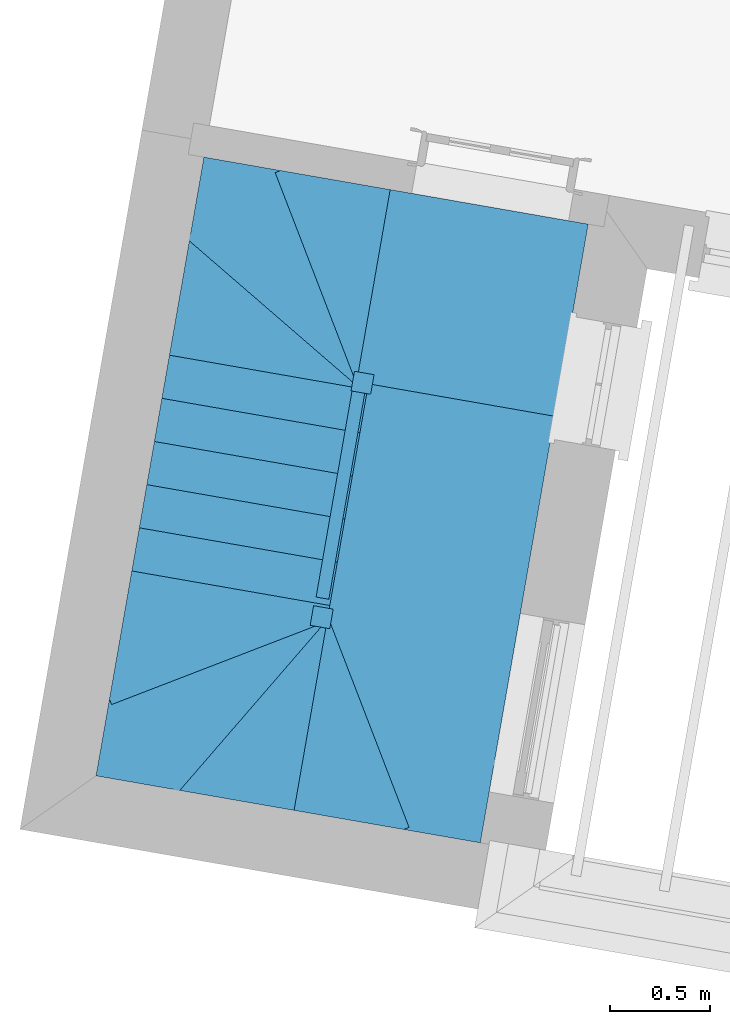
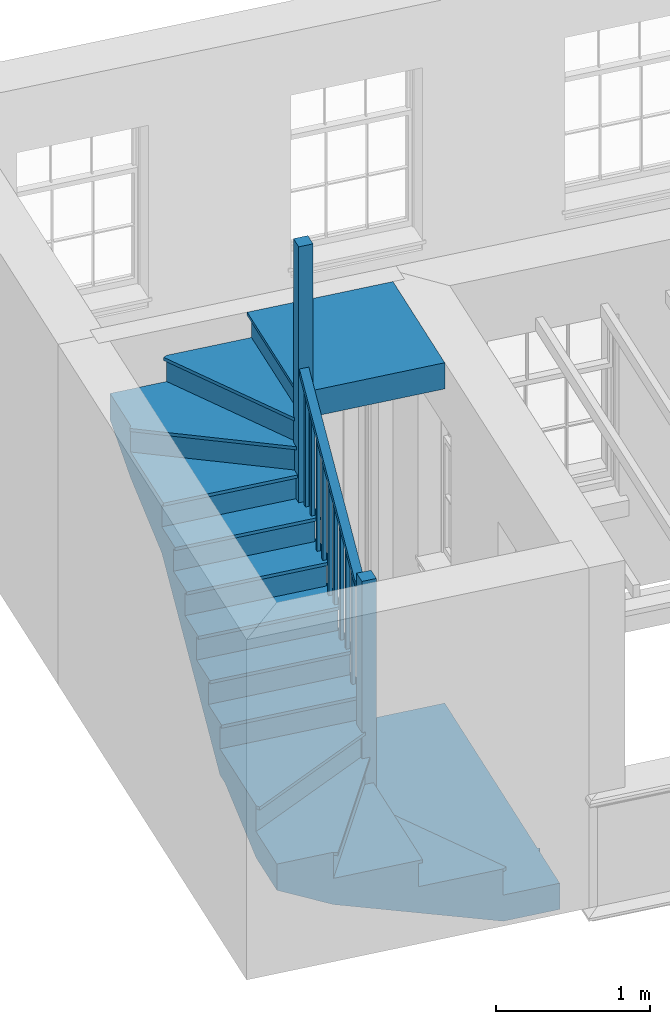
# One storey, part 6 of 6: 1 stair.
"""IFC4 building model written with IfcOpenShell, lengths in metres."""

from ifc_helpers import new_model, si_unit, frame, origin, origin_with_axes, place, context, subcontext, project, spatial, faceted_brep, element, save


model = new_model("IFC4")

# Units and contexts
model_context = context("Model", 3, world=origin_with_axes())
body_context = subcontext(model_context, "Body", "Model", "MODEL_VIEW")
ifc_project = project(units=[si_unit("PLANEANGLEUNIT", "RADIAN"), si_unit("MASSUNIT", "GRAM", prefix="KILO"), si_unit("FORCEUNIT", "NEWTON", prefix="KILO"), si_unit("LENGTHUNIT", "METRE"), si_unit("AREAUNIT", "SQUARE_METRE"), si_unit("VOLUMEUNIT", "CUBIC_METRE")], contexts=[model_context, model_context])

# Sites, building, storey
site_1_placement = place(None, origin_with_axes())
site_1 = spatial("IfcSite", under=ifc_project, at=site_1_placement, Name="Tamar")
site_2_placement = place(site_1_placement, origin_with_axes())
site_2 = spatial("IfcSite", under=site_1, at=site_2_placement, Name="Site plot-27", CompositionType="ELEMENT")
building_placement = place(None, origin_with_axes())
building = spatial("IfcBuilding", under=site_2, at=building_placement, Name="Building plot-27", CompositionType="ELEMENT")
storey_placement = place(None, frame((0.0, 0.0, 29.3), z_axis=(0.0, 0.0, 1.0), x_axis=(1.0, 0.0, 0.0)))
storey = spatial("IfcBuildingStorey", under=building, at=storey_placement, Name="plot-27 1", CompositionType="ELEMENT", Elevation=29.3)

# Stair
stair_placement = place(None, origin())
element("IfcStair", 1, at=stair_placement, inside=storey, Name="Stair", PredefinedType="NOTDEFINED", context=body_context, shape_type="Brep", body=[
    faceted_brep([(292.456542, 271.269902, 31.584615), (292.624795, 272.23476, 31.584615), (292.624795, 272.23476, 31.792308), (292.456542, 271.269902, 31.792308)], [[[0, 1, 2, 3]], [[1, 0, 3, 2]]]),
    faceted_brep([(292.456542, 271.269902, 31.767308), (292.443126, 271.243069, 31.767308), (292.456542, 271.269902, 31.792308), (292.443126, 271.243069, 31.792308)], [[[0, 1, 2]], [[1, 0, 2]], [[1, 3, 2]], [[3, 1, 2]]]),
    faceted_brep([(292.398696, 271.229235, 32.992308), (292.497209, 271.212056, 32.992308), (292.514388, 271.310569, 32.992308), (292.415875, 271.327748, 32.992308), (292.415875, 271.327748, 31.792308), (292.514388, 271.310569, 31.792308), (292.497209, 271.212056, 31.792308), (292.398696, 271.229235, 31.792308)], [[[0, 1, 2, 3]], [[4, 5, 6, 7]], [[7, 6, 1, 0]], [[6, 5, 2, 1]], [[5, 4, 3, 2]], [[4, 7, 0, 3]]]),
    faceted_brep([(292.624795, 272.23476, 31.792308), (292.04588, 272.335711, 31.792308), (292.456542, 271.269902, 31.792308), (292.456542, 271.269902, 31.376923), (292.04588, 272.335711, 31.376923), (292.624795, 272.23476, 31.584615)], [[[0, 1, 2]], [[3, 4, 5]], [[0, 5, 4, 1]], [[4, 3, 2, 1]], [[2, 3, 5, 0]]]),
    faceted_brep([(292.017887, 272.324925, 31.767308), (292.017887, 272.324925, 31.792308), (292.04588, 272.335711, 31.767308), (292.428548, 271.259116, 31.792308), (292.428548, 271.259116, 31.767308), (292.456542, 271.269902, 31.767308), (292.04588, 272.335711, 31.792308), (292.456542, 271.269902, 31.792308)], [[[0, 1, 2]], [[3, 4, 5]], [[2, 1, 6]], [[3, 5, 7]], [[6, 1, 3, 7]], [[2, 6, 7, 5]], [[0, 2, 5, 4]], [[1, 0, 4, 3]]]),
    faceted_brep([(292.04588, 272.335711, 31.584615), (291.659938, 272.403012, 31.584615), (291.592636, 272.017069, 31.584615), (292.456542, 271.269902, 31.584615), (292.456542, 271.269902, 31.169231), (291.592636, 272.017069, 31.169231), (291.659938, 272.403012, 31.376923), (292.04588, 272.335711, 31.376923)], [[[0, 1, 2, 3]], [[4, 5, 6, 7]], [[7, 6, 1, 0]], [[1, 6, 5, 2]], [[5, 4, 3, 2]], [[3, 4, 7, 0]]]),
    faceted_brep([(291.592636, 272.017069, 31.559615), (291.573012, 271.994379, 31.559615), (291.592636, 272.017069, 31.584615), (292.436917, 271.247211, 31.559615), (292.456542, 271.269902, 31.559615), (292.456542, 271.269902, 31.584615), (291.573012, 271.994379, 31.584615), (292.436917, 271.247211, 31.584615)], [[[0, 1, 2]], [[3, 4, 5]], [[1, 6, 2]], [[7, 3, 5]], [[2, 6, 7, 5]], [[0, 2, 5, 4]], [[1, 0, 4, 3]], [[6, 1, 3, 7]]]),
    faceted_brep([(291.592636, 272.017069, 31.376923), (291.491685, 271.438155, 31.376923), (292.456542, 271.269902, 31.376923), (292.456542, 271.269902, 30.961538), (291.491685, 271.438155, 30.961538), (291.592636, 272.017069, 31.169231)], [[[0, 1, 2]], [[3, 4, 5]], [[0, 5, 4, 1]], [[4, 3, 2, 1]], [[2, 3, 5, 0]]]),
    faceted_brep([(291.491685, 271.438155, 31.351923), (291.486531, 271.408601, 31.351923), (291.491685, 271.438155, 31.376923), (292.451388, 271.240348, 31.351923), (292.456542, 271.269902, 31.351923), (292.456542, 271.269902, 31.376923), (291.486531, 271.408601, 31.376923), (292.451388, 271.240348, 31.376923)], [[[0, 1, 2]], [[3, 4, 5]], [[1, 6, 2]], [[7, 3, 5]], [[2, 6, 7, 5]], [[0, 2, 5, 4]], [[1, 0, 4, 3]], [[6, 1, 3, 7]]]),
    faceted_brep([(292.398696, 271.229235, 31.792308), (292.497209, 271.212056, 31.792308), (292.514388, 271.310569, 31.792308), (292.415875, 271.327748, 31.792308), (292.415875, 271.327748, 30.876923), (292.514388, 271.310569, 30.876923), (292.497209, 271.212056, 30.876923), (292.398696, 271.229235, 30.876923)], [[[0, 1, 2, 3]], [[4, 5, 6, 7]], [[7, 6, 1, 0]], [[6, 5, 2, 1]], [[5, 4, 3, 2]], [[4, 7, 0, 3]]]),
    faceted_brep([(292.456542, 271.269902, 31.169231), (291.491685, 271.438155, 31.169231), (291.453891, 271.221426, 31.169231), (292.418749, 271.053173, 31.169231), (292.418749, 271.053173, 30.753846), (291.453891, 271.221426, 30.753846), (291.491685, 271.438155, 30.961538), (292.456542, 271.269902, 30.961538)], [[[0, 1, 2, 3]], [[4, 5, 6, 7]], [[7, 6, 1, 0]], [[1, 6, 5, 2]], [[5, 4, 3, 2]], [[3, 4, 7, 0]]]),
    faceted_brep([(291.453891, 271.221426, 31.144231), (291.448737, 271.191872, 31.144231), (291.453891, 271.221426, 31.169231), (291.496838, 271.467709, 31.144231), (291.491685, 271.438155, 31.144231), (291.491685, 271.438155, 31.169231), (291.448737, 271.191872, 31.169231), (291.496838, 271.467709, 31.169231), (292.443149, 271.018465, 31.169231), (292.418749, 271.053173, 31.169231), (292.418749, 271.053173, 31.144231), (292.443149, 271.018465, 31.144231), (292.49125, 271.294302, 31.169231), (292.456542, 271.269902, 31.169231), (292.456542, 271.269902, 31.144231), (292.49125, 271.294302, 31.144231)], [[[0, 1, 2]], [[3, 4, 5]], [[1, 6, 2]], [[7, 3, 5]], [[2, 6, 8, 9]], [[0, 2, 9, 10]], [[1, 0, 10, 11]], [[6, 1, 11, 8]], [[9, 8, 12, 13]], [[10, 9, 13, 14]], [[11, 10, 14, 15]], [[8, 11, 15, 12]], [[13, 12, 7, 5]], [[14, 13, 5, 4]], [[15, 14, 4, 3]], [[12, 15, 3, 7]]]),
    faceted_brep([(292.418749, 271.053173, 32.069231), (292.423043, 271.077801, 32.069231), (292.398415, 271.082096, 32.069231), (292.39412, 271.057467, 32.069231), (292.39412, 271.057467, 31.169231), (292.398415, 271.082096, 31.169231), (292.423043, 271.077801, 31.169231), (292.418749, 271.053173, 31.169231)], [[[0, 1, 2, 3]], [[4, 5, 6, 7]], [[7, 6, 1, 0]], [[6, 5, 2, 1]], [[5, 4, 3, 2]], [[4, 7, 0, 3]]]),
    faceted_brep([(292.437645, 271.161537, 32.173077), (292.44194, 271.186166, 32.173077), (292.417312, 271.19046, 32.173077), (292.413017, 271.165832, 32.173077), (292.413017, 271.165832, 31.169231), (292.417312, 271.19046, 31.169231), (292.44194, 271.186166, 31.169231), (292.437645, 271.161537, 31.169231)], [[[0, 1, 2, 3]], [[4, 5, 6, 7]], [[7, 6, 1, 0]], [[6, 5, 2, 1]], [[5, 4, 3, 2]], [[4, 7, 0, 3]]]),
    faceted_brep([(292.374418, 271.060903, 32.019231), (292.438451, 271.049737, 32.019231), (292.438451, 271.049737, 32.069231), (292.374418, 271.060903, 32.069231), (292.476245, 271.266466, 32.226923), (292.412211, 271.277633, 32.226923), (292.412211, 271.277633, 32.276923), (292.476245, 271.266466, 32.276923)], [[[0, 1, 2, 3]], [[4, 5, 6, 7]], [[0, 5, 4, 1]], [[3, 2, 7, 6]], [[0, 3, 6, 5]], [[2, 1, 4, 7]]]),
    faceted_brep([(292.418749, 271.053173, 30.961538), (291.453891, 271.221426, 30.961538), (291.416098, 271.004696, 30.961538), (292.380955, 270.836443, 30.961538), (292.380955, 270.836443, 30.546154), (291.416098, 271.004696, 30.546154), (291.453891, 271.221426, 30.753846), (292.418749, 271.053173, 30.753846)], [[[0, 1, 2, 3]], [[4, 5, 6, 7]], [[7, 6, 1, 0]], [[1, 6, 5, 2]], [[5, 4, 3, 2]], [[3, 4, 7, 0]]]),
    faceted_brep([(291.410944, 270.975142, 30.936538), (291.410944, 270.975142, 30.961538), (291.416098, 271.004696, 30.936538), (291.459045, 271.25098, 30.961538), (291.459045, 271.25098, 30.936538), (291.453891, 271.221426, 30.936538), (291.416098, 271.004696, 30.961538), (291.453891, 271.221426, 30.961538), (292.405355, 270.801736, 30.961538), (292.380955, 270.836443, 30.961538), (292.380955, 270.836443, 30.936538), (292.405355, 270.801736, 30.936538), (292.453456, 271.077573, 30.961538), (292.418749, 271.053173, 30.961538), (292.418749, 271.053173, 30.936538), (292.453456, 271.077573, 30.936538)], [[[0, 1, 2]], [[3, 4, 5]], [[2, 1, 6]], [[3, 5, 7]], [[6, 1, 8, 9]], [[2, 6, 9, 10]], [[0, 2, 10, 11]], [[1, 0, 11, 8]], [[9, 8, 12, 13]], [[10, 9, 13, 14]], [[11, 10, 14, 15]], [[8, 11, 15, 12]], [[13, 12, 3, 7]], [[14, 13, 7, 5]], [[15, 14, 5, 4]], [[12, 15, 4, 3]]]),
    faceted_brep([(292.380955, 270.836443, 31.861538), (292.38525, 270.861072, 31.861538), (292.360621, 270.865366, 31.861538), (292.356327, 270.840738, 31.861538), (292.356327, 270.840738, 30.961538), (292.360621, 270.865366, 30.961538), (292.38525, 270.861072, 30.961538), (292.380955, 270.836443, 30.961538)], [[[0, 1, 2, 3]], [[4, 5, 6, 7]], [[7, 6, 1, 0]], [[6, 5, 2, 1]], [[5, 4, 3, 2]], [[4, 7, 0, 3]]]),
    faceted_brep([(292.399852, 270.944808, 31.965385), (292.404147, 270.969436, 31.965385), (292.379518, 270.973731, 31.965385), (292.375223, 270.949103, 31.965385), (292.375223, 270.949103, 30.961538), (292.379518, 270.973731, 30.961538), (292.404147, 270.969436, 30.961538), (292.399852, 270.944808, 30.961538)], [[[0, 1, 2, 3]], [[4, 5, 6, 7]], [[7, 6, 1, 0]], [[6, 5, 2, 1]], [[5, 4, 3, 2]], [[4, 7, 0, 3]]]),
    faceted_brep([(292.336624, 270.844174, 31.811538), (292.400658, 270.833007, 31.811538), (292.400658, 270.833007, 31.861538), (292.336624, 270.844174, 31.861538), (292.438451, 271.049737, 32.019231), (292.374418, 271.060903, 32.019231), (292.374418, 271.060903, 32.069231), (292.438451, 271.049737, 32.069231)], [[[0, 1, 2, 3]], [[4, 5, 6, 7]], [[0, 5, 4, 1]], [[3, 2, 7, 6]], [[0, 3, 6, 5]], [[2, 1, 4, 7]]]),
    faceted_brep([(292.380955, 270.836443, 30.753846), (291.416098, 271.004696, 30.753846), (291.378304, 270.787967, 30.753846), (292.343162, 270.619714, 30.753846), (292.343162, 270.619714, 30.338462), (291.378304, 270.787967, 30.338462), (291.416098, 271.004696, 30.546154), (292.380955, 270.836443, 30.546154)], [[[0, 1, 2, 3]], [[4, 5, 6, 7]], [[7, 6, 1, 0]], [[1, 6, 5, 2]], [[5, 4, 3, 2]], [[3, 4, 7, 0]]]),
    faceted_brep([(291.37315, 270.758413, 30.728846), (291.37315, 270.758413, 30.753846), (291.378304, 270.787967, 30.728846), (291.421251, 271.03425, 30.753846), (291.421251, 271.03425, 30.728846), (291.416098, 271.004696, 30.728846), (291.378304, 270.787967, 30.753846), (291.416098, 271.004696, 30.753846), (292.367562, 270.585006, 30.753846), (292.343162, 270.619714, 30.753846), (292.343162, 270.619714, 30.728846), (292.367562, 270.585006, 30.728846), (292.415663, 270.860844, 30.753846), (292.380955, 270.836443, 30.753846), (292.380955, 270.836443, 30.728846), (292.415663, 270.860844, 30.728846)], [[[0, 1, 2]], [[3, 4, 5]], [[2, 1, 6]], [[3, 5, 7]], [[6, 1, 8, 9]], [[2, 6, 9, 10]], [[0, 2, 10, 11]], [[1, 0, 11, 8]], [[9, 8, 12, 13]], [[10, 9, 13, 14]], [[11, 10, 14, 15]], [[8, 11, 15, 12]], [[13, 12, 3, 7]], [[14, 13, 7, 5]], [[15, 14, 5, 4]], [[12, 15, 4, 3]]]),
    faceted_brep([(292.343162, 270.619714, 31.653846), (292.347456, 270.644342, 31.653846), (292.322828, 270.648637, 31.653846), (292.318533, 270.624009, 31.653846), (292.318533, 270.624009, 30.753846), (292.322828, 270.648637, 30.753846), (292.347456, 270.644342, 30.753846), (292.343162, 270.619714, 30.753846)], [[[0, 1, 2, 3]], [[4, 5, 6, 7]], [[7, 6, 1, 0]], [[6, 5, 2, 1]], [[5, 4, 3, 2]], [[4, 7, 0, 3]]]),
    faceted_brep([(292.362058, 270.728079, 31.757692), (292.366353, 270.752707, 31.757692), (292.341725, 270.757002, 31.757692), (292.33743, 270.732373, 31.757692), (292.33743, 270.732373, 30.753846), (292.341725, 270.757002, 30.753846), (292.366353, 270.752707, 30.753846), (292.362058, 270.728079, 30.753846)], [[[0, 1, 2, 3]], [[4, 5, 6, 7]], [[7, 6, 1, 0]], [[6, 5, 2, 1]], [[5, 4, 3, 2]], [[4, 7, 0, 3]]]),
    faceted_brep([(292.298831, 270.627444, 31.603846), (292.362864, 270.616278, 31.603846), (292.362864, 270.616278, 31.653846), (292.298831, 270.627444, 31.653846), (292.400658, 270.833007, 31.811538), (292.336624, 270.844174, 31.811538), (292.336624, 270.844174, 31.861538), (292.400658, 270.833007, 31.861538)], [[[0, 1, 2, 3]], [[4, 5, 6, 7]], [[0, 5, 4, 1]], [[3, 2, 7, 6]], [[0, 3, 6, 5]], [[2, 1, 4, 7]]]),
    faceted_brep([(292.343162, 270.619714, 30.546154), (291.378304, 270.787967, 30.546154), (291.340511, 270.571237, 30.546154), (292.305368, 270.402984, 30.546154), (292.305368, 270.402984, 30.130769), (291.340511, 270.571237, 30.130769), (291.378304, 270.787967, 30.338462), (292.343162, 270.619714, 30.338462)], [[[0, 1, 2, 3]], [[4, 5, 6, 7]], [[7, 6, 1, 0]], [[1, 6, 5, 2]], [[5, 4, 3, 2]], [[3, 4, 7, 0]]]),
    faceted_brep([(291.335357, 270.541683, 30.521154), (291.335357, 270.541683, 30.546154), (291.340511, 270.571237, 30.521154), (291.383458, 270.817521, 30.546154), (291.383458, 270.817521, 30.521154), (291.378304, 270.787967, 30.521154), (291.340511, 270.571237, 30.546154), (291.378304, 270.787967, 30.546154), (292.329768, 270.368277, 30.546154), (292.305368, 270.402984, 30.546154), (292.305368, 270.402984, 30.521154), (292.329768, 270.368277, 30.521154), (292.377869, 270.644114, 30.546154), (292.343162, 270.619714, 30.546154), (292.343162, 270.619714, 30.521154), (292.377869, 270.644114, 30.521154)], [[[0, 1, 2]], [[3, 4, 5]], [[2, 1, 6]], [[3, 5, 7]], [[6, 1, 8, 9]], [[2, 6, 9, 10]], [[0, 2, 10, 11]], [[1, 0, 11, 8]], [[9, 8, 12, 13]], [[10, 9, 13, 14]], [[11, 10, 14, 15]], [[8, 11, 15, 12]], [[13, 12, 3, 7]], [[14, 13, 7, 5]], [[15, 14, 5, 4]], [[12, 15, 4, 3]]]),
    faceted_brep([(292.305368, 270.402984, 31.446154), (292.309663, 270.427613, 31.446154), (292.285034, 270.431907, 31.446154), (292.28074, 270.407279, 31.446154), (292.28074, 270.407279, 30.546154), (292.285034, 270.431907, 30.546154), (292.309663, 270.427613, 30.546154), (292.305368, 270.402984, 30.546154)], [[[0, 1, 2, 3]], [[4, 5, 6, 7]], [[7, 6, 1, 0]], [[6, 5, 2, 1]], [[5, 4, 3, 2]], [[4, 7, 0, 3]]]),
    faceted_brep([(292.324265, 270.511349, 31.55), (292.328559, 270.535977, 31.55), (292.303931, 270.540272, 31.55), (292.299636, 270.515644, 31.55), (292.299636, 270.515644, 30.546154), (292.303931, 270.540272, 30.546154), (292.328559, 270.535977, 30.546154), (292.324265, 270.511349, 30.546154)], [[[0, 1, 2, 3]], [[4, 5, 6, 7]], [[7, 6, 1, 0]], [[6, 5, 2, 1]], [[5, 4, 3, 2]], [[4, 7, 0, 3]]]),
    faceted_brep([(292.261037, 270.410715, 31.396154), (292.325071, 270.399549, 31.396154), (292.325071, 270.399549, 31.446154), (292.261037, 270.410715, 31.446154), (292.362864, 270.616278, 31.603846), (292.298831, 270.627444, 31.603846), (292.298831, 270.627444, 31.653846), (292.362864, 270.616278, 31.653846)], [[[0, 1, 2, 3]], [[4, 5, 6, 7]], [[0, 5, 4, 1]], [[3, 2, 7, 6]], [[0, 3, 6, 5]], [[2, 1, 4, 7]]]),
    faceted_brep([(292.305368, 270.402984, 30.338462), (291.340511, 270.571237, 30.338462), (291.302717, 270.354508, 30.338462), (292.267575, 270.186255, 30.338462), (292.267575, 270.186255, 29.923077), (291.302717, 270.354508, 29.923077), (291.340511, 270.571237, 30.130769), (292.305368, 270.402984, 30.130769)], [[[0, 1, 2, 3]], [[4, 5, 6, 7]], [[7, 6, 1, 0]], [[1, 6, 5, 2]], [[5, 4, 3, 2]], [[3, 4, 7, 0]]]),
    faceted_brep([(291.297563, 270.324954, 30.313462), (291.297563, 270.324954, 30.338462), (291.302717, 270.354508, 30.313462), (291.345664, 270.600791, 30.338462), (291.345664, 270.600791, 30.313462), (291.340511, 270.571237, 30.313462), (291.302717, 270.354508, 30.338462), (291.340511, 270.571237, 30.338462), (292.291975, 270.151547, 30.338462), (292.267575, 270.186255, 30.338462), (292.267575, 270.186255, 30.313462), (292.291975, 270.151547, 30.313462), (292.340076, 270.427385, 30.338462), (292.305368, 270.402984, 30.338462), (292.305368, 270.402984, 30.313462), (292.340076, 270.427385, 30.313462)], [[[0, 1, 2]], [[3, 4, 5]], [[2, 1, 6]], [[3, 5, 7]], [[6, 1, 8, 9]], [[2, 6, 9, 10]], [[0, 2, 10, 11]], [[1, 0, 11, 8]], [[9, 8, 12, 13]], [[10, 9, 13, 14]], [[11, 10, 14, 15]], [[8, 11, 15, 12]], [[13, 12, 3, 7]], [[14, 13, 7, 5]], [[15, 14, 5, 4]], [[12, 15, 4, 3]]]),
    faceted_brep([(292.267575, 270.186255, 31.238462), (292.271869, 270.210883, 31.238462), (292.247241, 270.215178, 31.238462), (292.242946, 270.19055, 31.238462), (292.242946, 270.19055, 30.338462), (292.247241, 270.215178, 30.338462), (292.271869, 270.210883, 30.338462), (292.267575, 270.186255, 30.338462)], [[[0, 1, 2, 3]], [[4, 5, 6, 7]], [[7, 6, 1, 0]], [[6, 5, 2, 1]], [[5, 4, 3, 2]], [[4, 7, 0, 3]]]),
    faceted_brep([(292.286471, 270.29462, 31.342308), (292.290766, 270.319248, 31.342308), (292.266138, 270.323543, 31.342308), (292.261843, 270.298914, 31.342308), (292.261843, 270.298914, 30.338462), (292.266138, 270.323543, 30.338462), (292.290766, 270.319248, 30.338462), (292.286471, 270.29462, 30.338462)], [[[0, 1, 2, 3]], [[4, 5, 6, 7]], [[7, 6, 1, 0]], [[6, 5, 2, 1]], [[5, 4, 3, 2]], [[4, 7, 0, 3]]]),
    faceted_brep([(292.223243, 270.193985, 31.188462), (292.287277, 270.182819, 31.188462), (292.287277, 270.182819, 31.238462), (292.223243, 270.193985, 31.238462), (292.325071, 270.399549, 31.396154), (292.261037, 270.410715, 31.396154), (292.261037, 270.410715, 31.446154), (292.325071, 270.399549, 31.446154)], [[[0, 1, 2, 3]], [[4, 5, 6, 7]], [[0, 5, 4, 1]], [[3, 2, 7, 6]], [[0, 3, 6, 5]], [[2, 1, 4, 7]]]),
    faceted_brep([(292.267575, 270.186255, 30.130769), (291.302717, 270.354508, 30.130769), (291.286406, 270.26097, 30.130769), (292.251263, 270.092717, 30.130769), (292.251263, 270.092717, 29.923077), (291.286406, 270.26097, 29.923077), (291.302717, 270.354508, 29.923077), (292.267575, 270.186255, 29.923077)], [[[0, 1, 2, 3]], [[4, 5, 6, 7]], [[7, 6, 1, 0]], [[6, 5, 2, 1]], [[5, 4, 3, 2]], [[4, 7, 0, 3]]]),
    faceted_brep([(292.280817, 270.087564, 30.105769), (292.280817, 270.087564, 30.130769), (292.251263, 270.092717, 30.105769), (292.297129, 270.181101, 30.130769), (292.297129, 270.181101, 30.105769), (292.267575, 270.186255, 30.105769), (292.251263, 270.092717, 30.130769), (292.267575, 270.186255, 30.130769)], [[[0, 1, 2]], [[3, 4, 5]], [[2, 1, 6]], [[3, 5, 7]], [[6, 1, 3, 7]], [[2, 6, 7, 5]], [[0, 2, 5, 4]], [[1, 0, 4, 3]]]),
    faceted_brep([(292.291931, 270.034871, 31.330769), (292.309109, 270.133385, 31.330769), (292.210596, 270.150563, 31.330769), (292.193417, 270.05205, 31.330769), (292.193417, 270.05205, 30.130769), (292.210596, 270.150563, 30.130769), (292.309109, 270.133385, 30.130769), (292.291931, 270.034871, 30.130769)], [[[0, 1, 2, 3]], [[4, 5, 6, 7]], [[7, 6, 1, 0]], [[6, 5, 2, 1]], [[5, 4, 3, 2]], [[4, 7, 0, 3]]]),
    faceted_brep([(291.286406, 270.26097, 30.130769), (291.185454, 269.682056, 30.130769), (292.251263, 270.092717, 30.130769), (292.251263, 270.092717, 29.715385), (291.185454, 269.682056, 29.715385), (291.286406, 270.26097, 29.923077)], [[[0, 1, 2]], [[3, 4, 5]], [[0, 5, 4, 1]], [[4, 3, 2, 1]], [[2, 3, 5, 0]]]),
    faceted_brep([(291.19624, 269.654062, 30.105769), (291.19624, 269.654062, 30.130769), (291.185454, 269.682056, 30.105769), (292.26205, 270.064723, 30.130769), (292.26205, 270.064723, 30.105769), (292.251263, 270.092717, 30.105769), (291.185454, 269.682056, 30.130769), (292.251263, 270.092717, 30.130769)], [[[0, 1, 2]], [[3, 4, 5]], [[2, 1, 6]], [[3, 5, 7]], [[6, 1, 3, 7]], [[2, 6, 7, 5]], [[0, 2, 5, 4]], [[1, 0, 4, 3]]]),
    faceted_brep([(291.185454, 269.682056, 29.923077), (291.118153, 269.296113, 29.923077), (291.504096, 269.228812, 29.923077), (292.251263, 270.092717, 29.923077), (292.251263, 270.092717, 29.507692), (291.504096, 269.228812, 29.507692), (291.118153, 269.296113, 29.715385), (291.185454, 269.682056, 29.715385)], [[[0, 1, 2, 3]], [[4, 5, 6, 7]], [[7, 6, 1, 0]], [[1, 6, 5, 2]], [[5, 4, 3, 2]], [[3, 4, 7, 0]]]),
    faceted_brep([(291.504096, 269.228812, 29.898077), (291.526787, 269.209187, 29.898077), (291.504096, 269.228812, 29.923077), (292.273954, 270.073093, 29.898077), (292.251263, 270.092717, 29.898077), (292.251263, 270.092717, 29.923077), (291.526787, 269.209187, 29.923077), (292.273954, 270.073093, 29.923077)], [[[0, 1, 2]], [[3, 4, 5]], [[1, 6, 2]], [[7, 3, 5]], [[2, 6, 7, 5]], [[0, 2, 5, 4]], [[1, 0, 4, 3]], [[6, 1, 3, 7]]]),
    faceted_brep([(291.504096, 269.228812, 29.715385), (292.08301, 269.12786, 29.715385), (292.251263, 270.092717, 29.715385), (292.251263, 270.092717, 29.3), (292.08301, 269.12786, 29.3), (291.504096, 269.228812, 29.507692)], [[[0, 1, 2]], [[3, 4, 5]], [[0, 5, 4, 1]], [[4, 3, 2, 1]], [[2, 3, 5, 0]]]),
    faceted_brep([(292.08301, 269.12786, 29.690385), (292.112564, 269.122706, 29.690385), (292.08301, 269.12786, 29.715385), (292.280817, 270.087564, 29.690385), (292.251263, 270.092717, 29.690385), (292.251263, 270.092717, 29.715385), (292.112564, 269.122706, 29.715385), (292.280817, 270.087564, 29.715385)], [[[0, 1, 2]], [[3, 4, 5]], [[1, 6, 2]], [[7, 3, 5]], [[2, 6, 7, 5]], [[0, 2, 5, 4]], [[1, 0, 4, 3]], [[6, 1, 3, 7]]]),
    faceted_brep([(292.291931, 270.034871, 30.130769), (292.309109, 270.133385, 30.130769), (292.210596, 270.150563, 30.130769), (292.193417, 270.05205, 30.130769), (292.193417, 270.05205, 29.215385), (292.210596, 270.150563, 29.215385), (292.309109, 270.133385, 29.215385), (292.291931, 270.034871, 29.215385)], [[[0, 1, 2, 3]], [[4, 5, 6, 7]], [[7, 6, 1, 0]], [[6, 5, 2, 1]], [[5, 4, 3, 2]], [[4, 7, 0, 3]]]),
    faceted_brep([(292.251263, 270.092717, 29.3), (292.08301, 269.12786, 29.3), (292.08301, 269.12786, 29.507692), (292.251263, 270.092717, 29.507692)], [[[0, 1, 2, 3]], [[1, 0, 3, 2]]]),
    faceted_brep([(292.256195, 270.122309, 29.482692), (292.256195, 270.122309, 29.507692), (292.251263, 270.092717, 29.482692), (292.251263, 270.092717, 29.507692)], [[[0, 1, 2]], [[1, 0, 2]], [[2, 1, 3]], [[1, 2, 3]]]),
    faceted_brep([(292.309109, 270.133385, 30.707692), (292.210596, 270.150563, 30.707692), (292.193417, 270.05205, 30.707692), (292.291931, 270.034871, 30.707692), (292.291931, 270.034871, 29.507692), (292.193417, 270.05205, 29.507692), (292.210596, 270.150563, 29.507692), (292.309109, 270.133385, 29.507692)], [[[0, 1, 2, 3]], [[4, 5, 6, 7]], [[7, 6, 1, 0]], [[6, 5, 2, 1]], [[5, 4, 3, 2]], [[4, 7, 0, 3]]]),
    faceted_brep([(292.08301, 269.12786, 29.507692), (292.661925, 269.026908, 29.507692), (292.251263, 270.092717, 29.507692), (292.251263, 270.092717, 29.092308), (292.661925, 269.026908, 29.092308), (292.08301, 269.12786, 29.3)], [[[0, 1, 2]], [[3, 4, 5]], [[0, 5, 4, 1]], [[4, 3, 2, 1]], [[2, 3, 5, 0]]]),
    faceted_brep([(292.661925, 269.026908, 29.482692), (292.689919, 269.037694, 29.482692), (292.661925, 269.026908, 29.507692), (292.279257, 270.103504, 29.482692), (292.251263, 270.092717, 29.482692), (292.251263, 270.092717, 29.507692), (292.689919, 269.037694, 29.507692), (292.279257, 270.103504, 29.507692)], [[[0, 1, 2]], [[3, 4, 5]], [[1, 6, 2]], [[7, 3, 5]], [[2, 6, 7, 5]], [[0, 2, 5, 4]], [[1, 0, 4, 3]], [[6, 1, 3, 7]]]),
    faceted_brep([(292.661925, 269.026908, 29.3), (293.047868, 268.959607, 29.3), (293.115169, 269.34555, 29.3), (292.251263, 270.092717, 29.3), (292.251263, 270.092717, 28.884615), (293.115169, 269.34555, 28.884615), (293.047868, 268.959607, 29.092308), (292.661925, 269.026908, 29.092308)], [[[0, 1, 2, 3]], [[4, 5, 6, 7]], [[7, 6, 1, 0]], [[1, 6, 5, 2]], [[5, 4, 3, 2]], [[3, 4, 7, 0]]]),
    faceted_brep([(293.134794, 269.368241, 29.275), (293.134794, 269.368241, 29.3), (293.115169, 269.34555, 29.275), (292.270888, 270.115408, 29.3), (292.270888, 270.115408, 29.275), (292.251263, 270.092717, 29.275), (293.115169, 269.34555, 29.3), (292.251263, 270.092717, 29.3)], [[[0, 1, 2]], [[3, 4, 5]], [[2, 1, 6]], [[3, 5, 7]], [[6, 1, 3, 7]], [[2, 6, 7, 5]], [[0, 2, 5, 4]], [[1, 0, 4, 3]]]),
    faceted_brep([(293.115169, 269.34555, 29.3), (293.216121, 269.924464, 29.3), (292.251263, 270.092717, 29.3), (292.251263, 270.092717, 28.884615), (293.216121, 269.924464, 28.884615), (293.115169, 269.34555, 29.092308)], [[[0, 1, 2]], [[3, 4, 5]], [[0, 5, 4, 1]], [[4, 3, 2, 1]], [[2, 3, 5, 0]]]),
    faceted_brep([(293.216121, 269.924464, 29.275), (293.221274, 269.954018, 29.275), (293.216121, 269.924464, 29.3), (292.256417, 270.122271, 29.275), (292.251263, 270.092717, 29.275), (292.251263, 270.092717, 29.3), (293.221274, 269.954018, 29.3), (292.256417, 270.122271, 29.3)], [[[0, 1, 2]], [[3, 4, 5]], [[1, 6, 2]], [[7, 3, 5]], [[2, 6, 7, 5]], [[0, 2, 5, 4]], [[1, 0, 4, 3]], [[6, 1, 3, 7]]]),
    faceted_brep([(292.309109, 270.133385, 29.507692), (292.210596, 270.150563, 29.507692), (292.193417, 270.05205, 29.507692), (292.291931, 270.034871, 29.507692), (292.291931, 270.034871, 28.8), (292.193417, 270.05205, 28.8), (292.210596, 270.150563, 28.8), (292.309109, 270.133385, 28.8)], [[[0, 1, 2, 3]], [[4, 5, 6, 7]], [[7, 6, 1, 0]], [[6, 5, 2, 1]], [[5, 4, 3, 2]], [[4, 7, 0, 3]]]),
    faceted_brep([(292.251263, 270.092717, 29.3), (293.216121, 269.924464, 29.3), (293.421399, 271.101649, 29.3), (292.456542, 271.269902, 29.3), (292.456542, 271.269902, 29.092308), (293.421399, 271.101649, 29.092308), (293.216121, 269.924464, 29.092308), (292.251263, 270.092717, 29.092308)], [[[0, 1, 2, 3]], [[4, 5, 6, 7]], [[7, 6, 1, 0]], [[6, 5, 2, 1]], [[5, 4, 3, 2]], [[4, 7, 0, 3]]]),
    faceted_brep([(292.456542, 271.269902, 29.275), (292.426988, 271.275056, 29.275), (292.456542, 271.269902, 29.3), (292.221709, 270.097871, 29.275), (292.251263, 270.092717, 29.275), (292.251263, 270.092717, 29.3), (292.426988, 271.275056, 29.3), (292.221709, 270.097871, 29.3)], [[[0, 1, 2]], [[3, 4, 5]], [[1, 6, 2]], [[7, 3, 5]], [[2, 6, 7, 5]], [[0, 2, 5, 4]], [[1, 0, 4, 3]], [[6, 1, 3, 7]]]),
    faceted_brep([(292.415875, 271.327748, 33.2), (292.398696, 271.229235, 33.2), (292.497209, 271.212056, 33.2), (292.514388, 271.310569, 33.2), (292.514388, 271.310569, 32.0), (292.497209, 271.212056, 32.0), (292.398696, 271.229235, 32.0), (292.415875, 271.327748, 32.0)], [[[0, 1, 2, 3]], [[4, 5, 6, 7]], [[7, 6, 1, 0]], [[6, 5, 2, 1]], [[5, 4, 3, 2]], [[4, 7, 0, 3]]]),
    faceted_brep([(292.456542, 271.269902, 32.0), (293.421399, 271.101649, 32.0), (293.589652, 272.066507, 32.0), (292.624795, 272.23476, 32.0), (292.624795, 272.23476, 31.792308), (293.589652, 272.066507, 31.792308), (293.421399, 271.101649, 31.792308), (292.456542, 271.269902, 31.792308)], [[[0, 1, 2, 3]], [[4, 5, 6, 7]], [[7, 6, 1, 0]], [[6, 5, 2, 1]], [[5, 4, 3, 2]], [[4, 7, 0, 3]]]),
    faceted_brep([(292.595241, 272.239913, 31.975), (292.595241, 272.239913, 32.0), (292.624795, 272.23476, 31.975), (292.426988, 271.275056, 32.0), (292.426988, 271.275056, 31.975), (292.456542, 271.269902, 31.975), (292.624795, 272.23476, 32.0), (292.456542, 271.269902, 32.0)], [[[0, 1, 2]], [[3, 4, 5]], [[2, 1, 6]], [[3, 5, 7]], [[6, 1, 3, 7]], [[2, 6, 7, 5]], [[0, 2, 5, 4]], [[1, 0, 4, 3]]]),
    faceted_brep([(292.415875, 271.327748, 32.0), (292.398696, 271.229235, 32.0), (292.497209, 271.212056, 32.0), (292.514388, 271.310569, 32.0), (292.514388, 271.310569, 31.5), (292.497209, 271.212056, 31.5), (292.398696, 271.229235, 31.5), (292.415875, 271.327748, 31.5)], [[[0, 1, 2, 3]], [[4, 5, 6, 7]], [[7, 6, 1, 0]], [[6, 5, 2, 1]], [[5, 4, 3, 2]], [[4, 7, 0, 3]]]),
])

save(model, "model.ifc")
